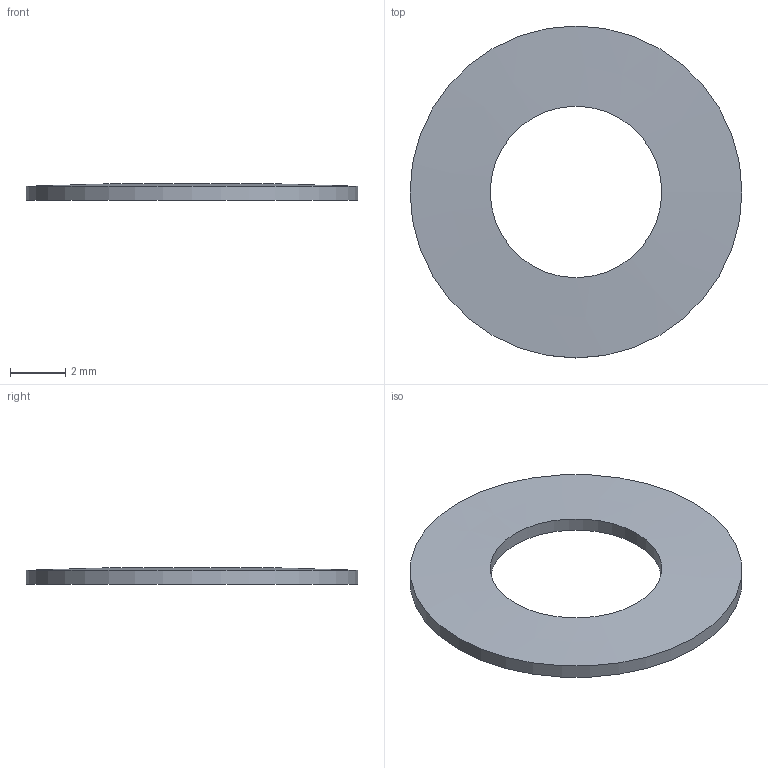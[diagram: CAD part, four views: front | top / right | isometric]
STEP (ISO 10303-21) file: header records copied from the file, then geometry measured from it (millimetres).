
FILE_DESCRIPTION(('Open CASCADE Model'),'2;1');
FILE_NAME('Open CASCADE Shape Model','2026-09-24T17:43:00',('Author'),( 'Open CASCADE'),'Open CASCADE STEP processor 7.8','Open CASCADE 7.8' ,'Unknown');
FILE_SCHEMA(('AUTOMOTIVE_DESIGN { 1 0 10303 214 1 1 1 1 }'));
Length unit declared in the file: millimetre
Products named in the file (1): Open CASCADE STEP translator 7.8 15
Bounding box: 12 x 12 x 0.59 mm (x, y, z)
Volume: 41.5 mm3; surface area: 194.5 mm2
Topology: 1 solids, 1 shells, 4 faces, 8 edges, 4 vertices
Faces by surface type: cone 2, cylinder 2
Full cylindrical faces by diameter (mm): 6.2 x1, 12 x1
Entity records: 222 total; most frequent: DIRECTION 38, CARTESIAN_POINT 33, LINE 20, VECTOR 20, ORIENTED_EDGE 16, PCURVE 16, DEFINITIONAL_REPRESENTATION 16, AXIS2_PLACEMENT_3D 9
